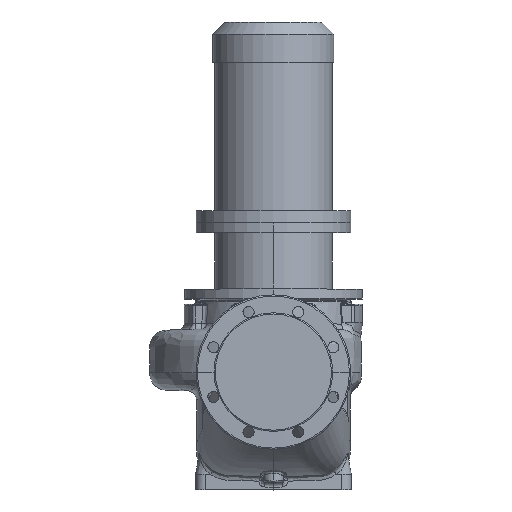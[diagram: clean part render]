
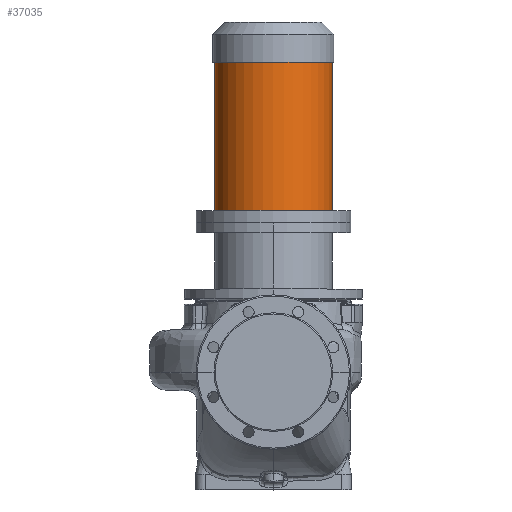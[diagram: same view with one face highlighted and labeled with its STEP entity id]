
A CAD part, top view. The second image highlights one B-rep face of the part: STEP entity #37035.
In plain terms, the highlighted cylindrical face has radius 95 mm (diameter 190 mm), a partial arc.
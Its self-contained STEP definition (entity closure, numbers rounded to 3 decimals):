
#164 = EDGE_CURVE ( 'NONE', #53042, #37062, #13131, .T. ) ;
#293 = EDGE_CURVE ( 'NONE', #37062, #43165, #39201, .T. ) ;
#3519 = ORIENTED_EDGE ( 'NONE', *, *, #164, .F. ) ;
#4566 = AXIS2_PLACEMENT_3D ( 'NONE', #16480, #43931, #26038 ) ;
#4622 = ORIENTED_EDGE ( 'NONE', *, *, #23688, .T. ) ;
#7333 = CARTESIAN_POINT ( 'NONE',  ( 0., 241.8, 0. ) ) ;
#9735 = CARTESIAN_POINT ( 'NONE',  ( -95., 261.8, 0. ) ) ;
#12520 = DIRECTION ( 'NONE',  ( 0., -1., 0. ) ) ;
#12694 = CARTESIAN_POINT ( 'NONE',  ( -95., 501.8, 0. ) ) ;
#13131 = LINE ( 'NONE', #47139, #54935 ) ;
#16480 = CARTESIAN_POINT ( 'NONE',  ( 0., 261.8, 0. ) ) ;
#16851 = CARTESIAN_POINT ( 'NONE',  ( 0., 501.8, 0. ) ) ;
#20334 = EDGE_CURVE ( 'NONE', #53042, #55056, #57653, .T. ) ;
#21847 = DIRECTION ( 'NONE',  ( 0., -1., 0. ) ) ;
#23688 = EDGE_CURVE ( 'NONE', #55056, #43165, #50113, .T. ) ;
#24534 = ORIENTED_EDGE ( 'NONE', *, *, #20334, .T. ) ;
#26038 = DIRECTION ( 'NONE',  ( -1., 0., 0. ) ) ;
#33819 = DIRECTION ( 'NONE',  ( 0., -1., 0. ) ) ;
#35764 = DIRECTION ( 'NONE',  ( -1., 0., 0. ) ) ;
#37035 = ADVANCED_FACE ( 'NONE', ( #48337 ), #55859, .T. ) ;
#37062 = VERTEX_POINT ( 'NONE', #50656 ) ;
#37341 = CARTESIAN_POINT ( 'NONE',  ( 95., 501.8, 0. ) ) ;
#38243 = ORIENTED_EDGE ( 'NONE', *, *, #293, .F. ) ;
#39201 = CIRCLE ( 'NONE', #4566, 95. ) ;
#40624 = DIRECTION ( 'NONE',  ( -1., 0., 0. ) ) ;
#43165 = VERTEX_POINT ( 'NONE', #9735 ) ;
#43830 = CARTESIAN_POINT ( 'NONE',  ( -95., 241.8, 0. ) ) ;
#43931 = DIRECTION ( 'NONE',  ( 0., -1., 0. ) ) ;
#46701 = AXIS2_PLACEMENT_3D ( 'NONE', #7333, #12520, #40624 ) ;
#47139 = CARTESIAN_POINT ( 'NONE',  ( 95., 241.8, 0. ) ) ;
#48337 = FACE_OUTER_BOUND ( 'NONE', #54094, .T. ) ;
#50113 = LINE ( 'NONE', #43830, #59109 ) ;
#50656 = CARTESIAN_POINT ( 'NONE',  ( 95., 261.8, 0. ) ) ;
#53042 = VERTEX_POINT ( 'NONE', #37341 ) ;
#54094 = EDGE_LOOP ( 'NONE', ( #3519, #24534, #4622, #38243 ) ) ;
#54935 = VECTOR ( 'NONE', #56948, 1000. ) ;
#55056 = VERTEX_POINT ( 'NONE', #12694 ) ;
#55859 = CYLINDRICAL_SURFACE ( 'NONE', #46701, 95. ) ;
#56948 = DIRECTION ( 'NONE',  ( 0., -1., 0. ) ) ;
#57653 = CIRCLE ( 'NONE', #58853, 95. ) ;
#58853 = AXIS2_PLACEMENT_3D ( 'NONE', #16851, #21847, #35764 ) ;
#59109 = VECTOR ( 'NONE', #33819, 1000. ) ;
